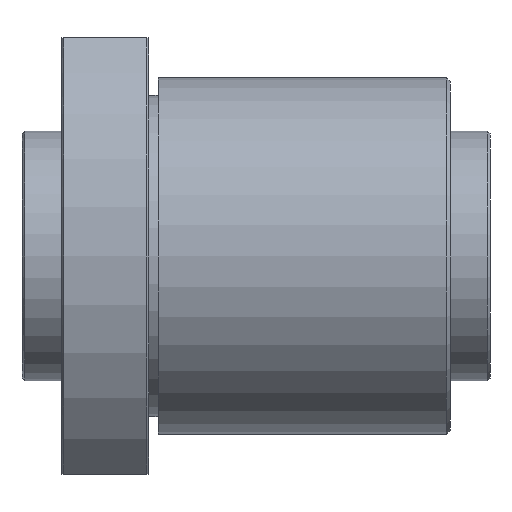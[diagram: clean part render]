
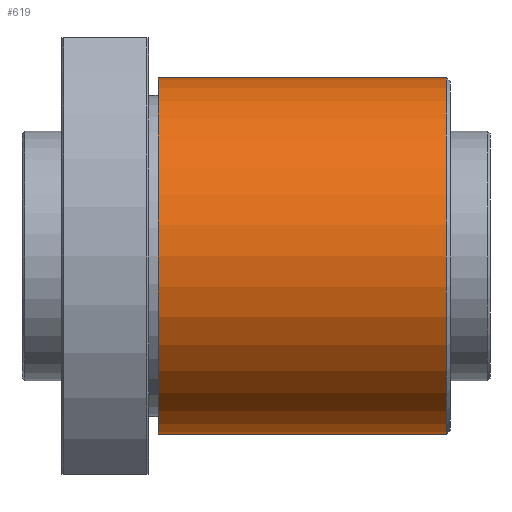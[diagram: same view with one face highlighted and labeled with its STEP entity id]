
A CAD part, front view. The second image highlights one B-rep face of the part: STEP entity #619.
In plain terms, the highlighted cylindrical face has radius 45 mm (diameter 90 mm), a full revolution.
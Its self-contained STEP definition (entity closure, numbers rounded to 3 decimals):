
#61=CYLINDRICAL_SURFACE('',#724,45.);
#152=ORIENTED_EDGE('',*,*,#270,.T.);
#153=ORIENTED_EDGE('',*,*,#269,.F.);
#269=EDGE_CURVE('',#328,#328,#377,.T.);
#270=EDGE_CURVE('',#329,#329,#378,.T.);
#328=VERTEX_POINT('',#1136);
#329=VERTEX_POINT('',#1139);
#377=CIRCLE('',#723,45.);
#378=CIRCLE('',#725,45.);
#435=EDGE_LOOP('',(#152));
#436=EDGE_LOOP('',(#153));
#531=FACE_BOUND('',#435,.T.);
#532=FACE_BOUND('',#436,.T.);
#619=ADVANCED_FACE('',(#531,#532),#61,.T.);
#723=AXIS2_PLACEMENT_3D('',#1135,#878,#879);
#724=AXIS2_PLACEMENT_3D('',#1137,#880,#881);
#725=AXIS2_PLACEMENT_3D('',#1138,#882,#883);
#878=DIRECTION('',(1.,0.,0.));
#879=DIRECTION('',(0.,0.,-1.));
#880=DIRECTION('',(1.,0.,0.));
#881=DIRECTION('',(0.,0.,-1.));
#882=DIRECTION('',(1.,0.,0.));
#883=DIRECTION('',(0.,0.,-1.));
#1135=CARTESIAN_POINT('',(97.,0.,0.));
#1136=CARTESIAN_POINT('',(97.,0.,-45.));
#1137=CARTESIAN_POINT('',(50.,0.,0.));
#1138=CARTESIAN_POINT('',(24.3,0.,0.));
#1139=CARTESIAN_POINT('',(24.3,0.,-45.));
